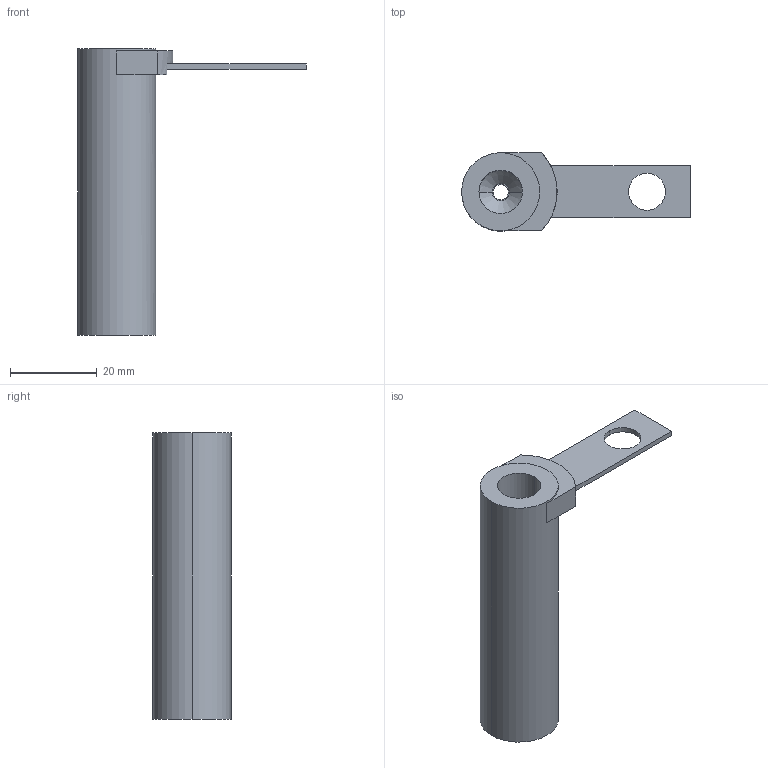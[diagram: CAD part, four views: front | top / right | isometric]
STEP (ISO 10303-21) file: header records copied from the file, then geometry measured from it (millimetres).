
FILE_DESCRIPTION(/* description */ (''),/* implementation_level */ '2;1');
FILE_NAME(/* name */ '3d_tus10-66b_06253_r00.stp',/* time_stamp */ '2011-01-10T14:08:55+09:00',/* author */ ('MISUMI'),/* organization */ (''),/* preprocessor_version */ 'ST-DEVELOPER v11',/* originating_system */ 'UGS - NX 5.0',/* authorisation */ '');
FILE_SCHEMA (('CONFIG_CONTROL_DESIGN'));
Length unit declared in the file: millimetre
Products named in the file (1): 3d_tus10-66b_06253_r00
Bounding box: 52.71 x 18 x 66 mm (x, y, z)
Volume: 12914.7 mm3; surface area: 7219.7 mm2
Topology: 2 solids, 2 shells, 28 faces, 67 edges, 44 vertices
Faces by surface type: plane 17, cylinder 9, cone 2
Entity records: 915 total; most frequent: DIRECTION 153, CARTESIAN_POINT 140, ORIENTED_EDGE 134, EDGE_CURVE 67, AXIS2_PLACEMENT_3D 57, VERTEX_POINT 44, LINE 39, VECTOR 39
